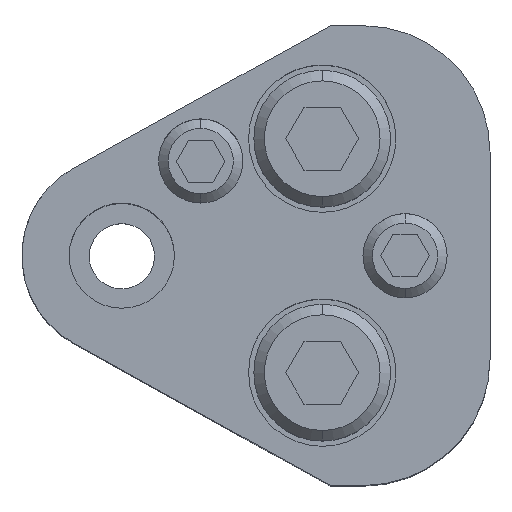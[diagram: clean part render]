
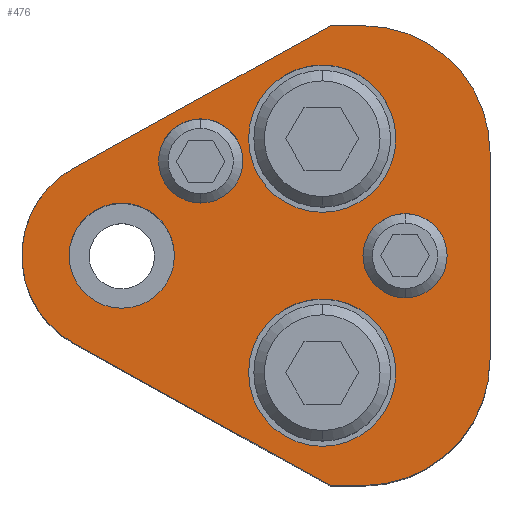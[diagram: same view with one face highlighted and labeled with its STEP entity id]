
A CAD part, top view. The second image highlights one B-rep face of the part: STEP entity #476.
In plain terms, the highlighted planar face has unit normal (0, 0, 1).
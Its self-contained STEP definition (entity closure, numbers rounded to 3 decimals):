
#213=FACE_BOUND('',#843,.T.);
#214=FACE_BOUND('',#844,.T.);
#215=FACE_BOUND('',#845,.T.);
#216=FACE_BOUND('',#846,.T.);
#217=FACE_BOUND('',#847,.T.);
#218=FACE_BOUND('',#848,.T.);
#300=CIRCLE('',#2767,12.);
#302=CIRCLE('',#2771,12.);
#304=CIRCLE('',#2776,4.);
#306=CIRCLE('',#2779,4.);
#308=CIRCLE('',#2782,4.);
#310=CIRCLE('',#2785,4.);
#320=CIRCLE('',#2800,9.5);
#321=CIRCLE('',#2801,7.);
#322=CIRCLE('',#2802,7.);
#323=CIRCLE('',#2803,7.);
#324=CIRCLE('',#2804,7.);
#325=CIRCLE('',#2805,5.);
#326=CIRCLE('',#2806,5.);
#476=ADVANCED_FACE('',(#213,#214,#215,#216,#217,#218),#592,.T.);
#592=PLANE('',#2807);
#843=EDGE_LOOP('',(#1250,#1251,#1252,#1253,#1254,#1255,#1256,#1257));
#844=EDGE_LOOP('',(#1258,#1259));
#845=EDGE_LOOP('',(#1260,#1261));
#846=EDGE_LOOP('',(#1262,#1263));
#847=EDGE_LOOP('',(#1264,#1265));
#848=EDGE_LOOP('',(#1266,#1267));
#1250=ORIENTED_EDGE('',*,*,#2066,.T.);
#1251=ORIENTED_EDGE('',*,*,#2024,.T.);
#1252=ORIENTED_EDGE('',*,*,#2028,.T.);
#1253=ORIENTED_EDGE('',*,*,#2031,.T.);
#1254=ORIENTED_EDGE('',*,*,#2034,.T.);
#1255=ORIENTED_EDGE('',*,*,#2037,.T.);
#1256=ORIENTED_EDGE('',*,*,#2040,.T.);
#1257=ORIENTED_EDGE('',*,*,#2067,.T.);
#1258=ORIENTED_EDGE('',*,*,#2068,.F.);
#1259=ORIENTED_EDGE('',*,*,#2069,.F.);
#1260=ORIENTED_EDGE('',*,*,#2070,.F.);
#1261=ORIENTED_EDGE('',*,*,#2071,.F.);
#1262=ORIENTED_EDGE('',*,*,#2052,.F.);
#1263=ORIENTED_EDGE('',*,*,#2048,.F.);
#1264=ORIENTED_EDGE('',*,*,#2046,.F.);
#1265=ORIENTED_EDGE('',*,*,#2042,.F.);
#1266=ORIENTED_EDGE('',*,*,#2072,.T.);
#1267=ORIENTED_EDGE('',*,*,#2073,.T.);
#1749=VERTEX_POINT('',#4092);
#1750=VERTEX_POINT('',#4094);
#1753=VERTEX_POINT('',#4101);
#1755=VERTEX_POINT('',#4107);
#1757=VERTEX_POINT('',#4113);
#1759=VERTEX_POINT('',#4119);
#1761=VERTEX_POINT('',#4125);
#1762=VERTEX_POINT('',#4130);
#1763=VERTEX_POINT('',#4131);
#1766=VERTEX_POINT('',#4142);
#1767=VERTEX_POINT('',#4143);
#1778=VERTEX_POINT('',#4178);
#1779=VERTEX_POINT('',#4181);
#1780=VERTEX_POINT('',#4182);
#1781=VERTEX_POINT('',#4185);
#1782=VERTEX_POINT('',#4186);
#1783=VERTEX_POINT('',#4189);
#1784=VERTEX_POINT('',#4190);
#2024=EDGE_CURVE('',#1750,#1749,#2332,.T.);
#2028=EDGE_CURVE('',#1749,#1753,#300,.T.);
#2031=EDGE_CURVE('',#1753,#1755,#2337,.T.);
#2034=EDGE_CURVE('',#1755,#1757,#302,.T.);
#2037=EDGE_CURVE('',#1757,#1759,#2341,.T.);
#2040=EDGE_CURVE('',#1759,#1761,#2344,.T.);
#2042=EDGE_CURVE('',#1762,#1763,#304,.T.);
#2046=EDGE_CURVE('',#1763,#1762,#306,.T.);
#2048=EDGE_CURVE('',#1766,#1767,#308,.T.);
#2052=EDGE_CURVE('',#1767,#1766,#310,.T.);
#2066=EDGE_CURVE('',#1778,#1750,#2354,.T.);
#2067=EDGE_CURVE('',#1761,#1778,#320,.T.);
#2068=EDGE_CURVE('',#1779,#1780,#321,.T.);
#2069=EDGE_CURVE('',#1780,#1779,#322,.T.);
#2070=EDGE_CURVE('',#1781,#1782,#323,.T.);
#2071=EDGE_CURVE('',#1782,#1781,#324,.T.);
#2072=EDGE_CURVE('',#1783,#1784,#325,.T.);
#2073=EDGE_CURVE('',#1784,#1783,#326,.T.);
#2332=LINE('',#4093,#2533);
#2337=LINE('',#4108,#2538);
#2341=LINE('',#4120,#2542);
#2344=LINE('',#4126,#2545);
#2354=LINE('',#4177,#2555);
#2533=VECTOR('',#3243,1.);
#2538=VECTOR('',#3256,1.);
#2542=VECTOR('',#3268,1.);
#2545=VECTOR('',#3273,1.);
#2555=VECTOR('',#3333,1.);
#2767=AXIS2_PLACEMENT_3D('',#4102,#3249,#3250);
#2771=AXIS2_PLACEMENT_3D('',#4114,#3261,#3262);
#2776=AXIS2_PLACEMENT_3D('',#4129,#3277,#3278);
#2779=AXIS2_PLACEMENT_3D('',#4138,#3285,#3286);
#2782=AXIS2_PLACEMENT_3D('',#4141,#3291,#3292);
#2785=AXIS2_PLACEMENT_3D('',#4150,#3299,#3300);
#2800=AXIS2_PLACEMENT_3D('',#4179,#3334,#3335);
#2801=AXIS2_PLACEMENT_3D('',#4180,#3336,#3337);
#2802=AXIS2_PLACEMENT_3D('',#4183,#3338,#3339);
#2803=AXIS2_PLACEMENT_3D('',#4184,#3340,#3341);
#2804=AXIS2_PLACEMENT_3D('',#4187,#3342,#3343);
#2805=AXIS2_PLACEMENT_3D('',#4188,#3344,#3345);
#2806=AXIS2_PLACEMENT_3D('',#4191,#3346,#3347);
#2807=AXIS2_PLACEMENT_3D('',#4192,#3348,#3349);
#3243=DIRECTION('',(1.,0.,0.));
#3249=DIRECTION('',(0.,0.,1.));
#3250=DIRECTION('',(-0.707,0.707,0.));
#3256=DIRECTION('',(0.,1.,0.));
#3261=DIRECTION('',(0.,0.,1.));
#3262=DIRECTION('',(-0.707,-0.707,0.));
#3268=DIRECTION('',(-1.,0.,0.));
#3273=DIRECTION('',(-0.875,-0.485,0.));
#3277=DIRECTION('',(0.,0.,1.));
#3278=DIRECTION('',(-1.,0.,0.));
#3285=DIRECTION('',(0.,0.,1.));
#3286=DIRECTION('',(1.,0.,0.));
#3291=DIRECTION('',(0.,0.,1.));
#3292=DIRECTION('',(-1.,0.,0.));
#3299=DIRECTION('',(0.,0.,1.));
#3300=DIRECTION('',(1.,0.,0.));
#3333=DIRECTION('',(0.875,-0.485,0.));
#3334=DIRECTION('',(0.,0.,1.));
#3335=DIRECTION('',(1.,0.,0.));
#3336=DIRECTION('',(0.,0.,1.));
#3337=DIRECTION('',(1.,0.,0.));
#3338=DIRECTION('',(0.,0.,1.));
#3339=DIRECTION('',(-1.,0.,0.));
#3340=DIRECTION('',(0.,0.,1.));
#3341=DIRECTION('',(1.,0.,0.));
#3342=DIRECTION('',(0.,0.,1.));
#3343=DIRECTION('',(-1.,0.,0.));
#3344=DIRECTION('',(0.,0.,-1.));
#3345=DIRECTION('',(-1.,0.,0.));
#3346=DIRECTION('',(0.,0.,-1.));
#3347=DIRECTION('',(1.,0.,0.));
#3348=DIRECTION('',(0.,0.,1.));
#3349=DIRECTION('',(-0.875,0.485,0.));
#4092=CARTESIAN_POINT('',(23.,-21.85,37.));
#4093=CARTESIAN_POINT('',(19.823,-21.85,37.));
#4094=CARTESIAN_POINT('',(19.823,-21.85,37.));
#4101=CARTESIAN_POINT('',(35.,-9.85,37.));
#4102=CARTESIAN_POINT('',(23.,-9.85,37.));
#4107=CARTESIAN_POINT('',(35.,9.85,37.));
#4108=CARTESIAN_POINT('',(35.,9.85,37.));
#4113=CARTESIAN_POINT('',(23.,21.85,37.));
#4114=CARTESIAN_POINT('',(23.,9.85,37.));
#4119=CARTESIAN_POINT('',(19.823,21.85,37.));
#4120=CARTESIAN_POINT('',(19.823,21.85,37.));
#4125=CARTESIAN_POINT('',(-4.606,8.309,37.));
#4126=CARTESIAN_POINT('',(19.823,21.85,37.));
#4129=CARTESIAN_POINT('',(7.5,9.,37.));
#4130=CARTESIAN_POINT('',(7.5,5.,37.));
#4131=CARTESIAN_POINT('',(7.5,13.,37.));
#4138=CARTESIAN_POINT('',(7.5,9.,37.));
#4141=CARTESIAN_POINT('',(26.925,0.,37.));
#4142=CARTESIAN_POINT('',(26.925,-4.,37.));
#4143=CARTESIAN_POINT('',(26.925,4.,37.));
#4150=CARTESIAN_POINT('',(26.925,0.,37.));
#4177=CARTESIAN_POINT('',(19.823,-21.85,37.));
#4178=CARTESIAN_POINT('',(-4.606,-8.309,37.));
#4179=CARTESIAN_POINT('',(0.,0.,37.));
#4180=CARTESIAN_POINT('',(19.05,11.12,37.));
#4181=CARTESIAN_POINT('',(19.05,18.12,37.));
#4182=CARTESIAN_POINT('',(19.05,4.12,37.));
#4183=CARTESIAN_POINT('',(19.05,11.12,37.));
#4184=CARTESIAN_POINT('',(19.05,-11.12,37.));
#4185=CARTESIAN_POINT('',(19.05,-4.12,37.));
#4186=CARTESIAN_POINT('',(19.05,-18.12,37.));
#4187=CARTESIAN_POINT('',(19.05,-11.12,37.));
#4188=CARTESIAN_POINT('',(0.,0.,37.));
#4189=CARTESIAN_POINT('',(0.,5.,37.));
#4190=CARTESIAN_POINT('',(0.,-5.,37.));
#4191=CARTESIAN_POINT('',(0.,0.,37.));
#4192=CARTESIAN_POINT('',(-4.606,-8.309,37.));
